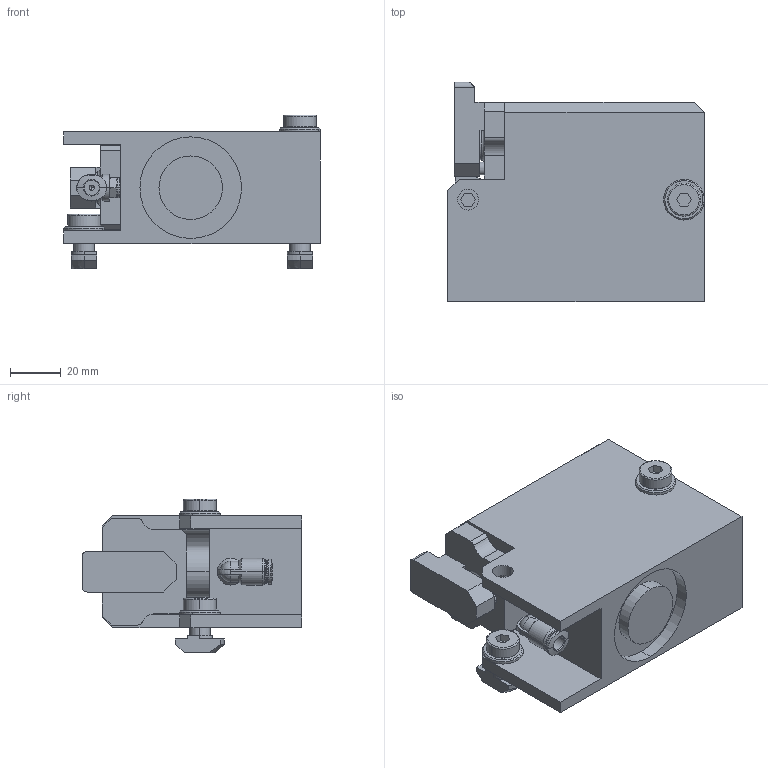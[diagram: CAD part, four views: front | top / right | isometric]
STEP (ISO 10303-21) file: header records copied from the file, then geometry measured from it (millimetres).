
FILE_DESCRIPTION (( 'STEP AP203' ), '1' );
FILE_NAME ('ASUTEC-ASM-100-EW-08-100.STEP', '2016-09-22T07:55:47', ( '' ), ( '' ), 'SwSTEP 2.0', 'SolidWorks 2015', '' );
FILE_SCHEMA (( 'CONFIG_CONTROL_DESIGN' ));
Length unit declared in the file: metre
Products named in the file (1): ASUTEC-ASM-100-EW-08-100
Bounding box: 101 x 86.5 x 60.6 mm (x, y, z)
Volume: 276715.7 mm3; surface area: 61161.6 mm2
Topology: 10 solids, 10 shells, 580 faces, 1450 edges, 943 vertices
Faces by surface type: plane 305, cylinder 133, bspline 77, cone 48, torus 13, sphere 4
Entity records: 22572 total; most frequent: CARTESIAN_POINT 8951, ORIENTED_EDGE 2896, DIRECTION 2589, EDGE_CURVE 1448, VERTEX_POINT 943, LINE 899, VECTOR 899, AXIS2_PLACEMENT_3D 845
